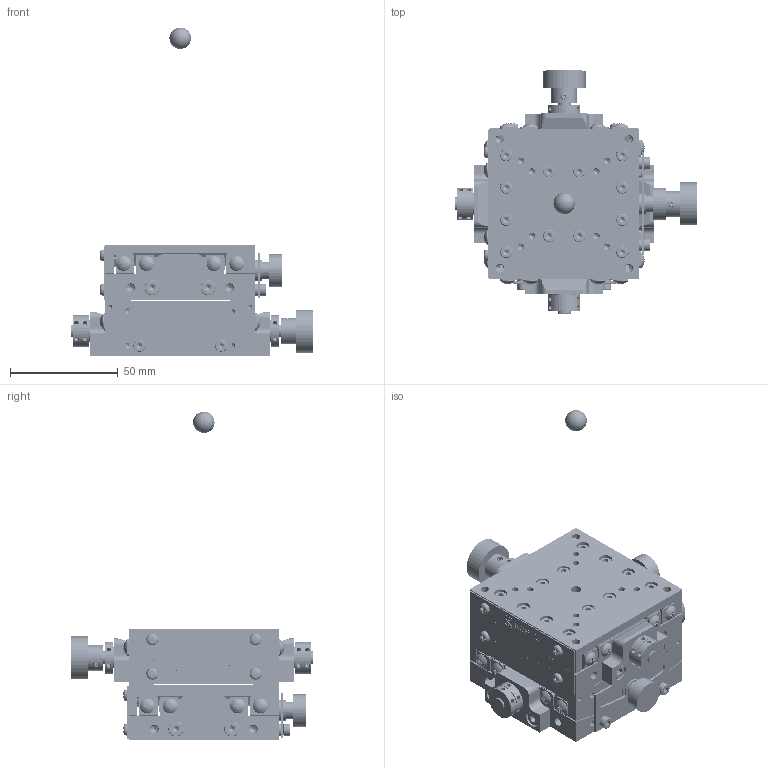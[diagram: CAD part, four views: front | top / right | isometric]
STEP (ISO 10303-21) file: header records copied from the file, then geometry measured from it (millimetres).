
FILE_DESCRIPTION (( 'STEP AP203' ), '1' );
FILE_NAME ('SH07A-RL-RRR.STEP', '2015-05-12T03:52:52', ( '' ), ( '' ), 'SwSTEP 2.0', 'SolidWorks 2011', '' );
FILE_SCHEMA (( 'CONFIG_CONTROL_DESIGN' ));
Length unit declared in the file: millimetre
Products named in the file (5): SH07A-RL-RRR; lower-table-7; base-26; upper-table-7; rotation-center-19
Assembly tree (4 placements, depth 2):
  SH07A-RL-RRR
    base-26
    lower-table-7
    rotation-center-19
    upper-table-7
Bounding box: 113 x 113 x 153 mm (x, y, z)
Volume: 252948.9 mm3; surface area: 104273.2 mm2
Topology: 4 solids, 102 shells, 4687 faces, 11255 edges, 6854 vertices
Faces by surface type: plane 2326, cylinder 1496, cone 691, torus 112, sphere 50, bspline 12
Entity records: 142885 total; most frequent: CARTESIAN_POINT 32637, DIRECTION 23887, ORIENTED_EDGE 21992, EDGE_CURVE 10996, AXIS2_PLACEMENT_3D 8868, VERTEX_POINT 6851, LINE 6151, VECTOR 6151
